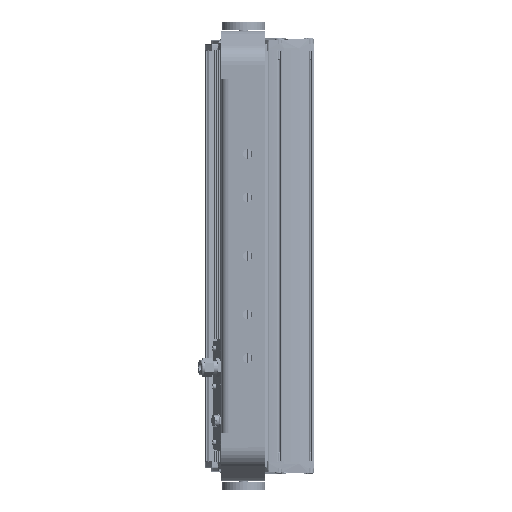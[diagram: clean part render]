
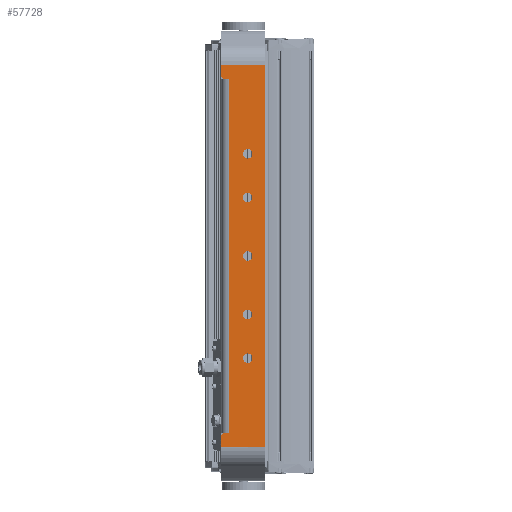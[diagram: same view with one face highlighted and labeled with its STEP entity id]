
A CAD part, front view. The second image highlights one B-rep face of the part: STEP entity #57728.
In plain terms, the highlighted planar face has unit normal (0, -1, 0).
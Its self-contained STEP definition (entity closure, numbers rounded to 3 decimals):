
#3457=FACE_BOUND('',#9179,.T.);
#3458=FACE_BOUND('',#9180,.T.);
#3459=FACE_BOUND('',#9181,.T.);
#3460=FACE_BOUND('',#9182,.T.);
#3461=FACE_BOUND('',#9183,.T.);
#4200=PLANE('',#62066);
#5800=FACE_OUTER_BOUND('',#9178,.T.);
#9178=EDGE_LOOP('',(#39408,#39409,#39410,#39411,#39412,#39413,#39414,#39415,
#39416,#39417,#39418,#39419,#39420,#39421));
#9179=EDGE_LOOP('',(#39422));
#9180=EDGE_LOOP('',(#39423));
#9181=EDGE_LOOP('',(#39424));
#9182=EDGE_LOOP('',(#39425));
#9183=EDGE_LOOP('',(#39426));
#13292=LINE('',#87783,#17719);
#13304=LINE('',#87826,#17731);
#13305=LINE('',#87828,#17732);
#13306=LINE('',#87830,#17733);
#13307=LINE('',#87831,#17734);
#13308=LINE('',#87833,#17735);
#13309=LINE('',#87837,#17736);
#13310=LINE('',#87839,#17737);
#13311=LINE('',#87841,#17738);
#13312=LINE('',#87844,#17739);
#17719=VECTOR('',#69164,10.);
#17731=VECTOR('',#69200,10.);
#17732=VECTOR('',#69201,10.);
#17733=VECTOR('',#69202,10.);
#17734=VECTOR('',#69203,10.);
#17735=VECTOR('',#69204,10.);
#17736=VECTOR('',#69207,10.);
#17737=VECTOR('',#69208,10.);
#17738=VECTOR('',#69209,10.);
#17739=VECTOR('',#69212,10.);
#22143=CIRCLE('',#62053,3.);
#22152=CIRCLE('',#62065,3.);
#22153=CIRCLE('',#62067,0.25);
#22154=CIRCLE('',#62068,0.25);
#22155=CIRCLE('',#62069,6.5);
#22156=CIRCLE('',#62070,6.5);
#22157=CIRCLE('',#62071,6.5);
#22158=CIRCLE('',#62072,6.5);
#22159=CIRCLE('',#62073,6.5);
#25258=VERTEX_POINT('',#87773);
#25259=VERTEX_POINT('',#87775);
#25261=VERTEX_POINT('',#87781);
#25278=VERTEX_POINT('',#87819);
#25279=VERTEX_POINT('',#87820);
#25280=VERTEX_POINT('',#87825);
#25281=VERTEX_POINT('',#87827);
#25282=VERTEX_POINT('',#87829);
#25283=VERTEX_POINT('',#87832);
#25284=VERTEX_POINT('',#87834);
#25285=VERTEX_POINT('',#87836);
#25286=VERTEX_POINT('',#87838);
#25287=VERTEX_POINT('',#87840);
#25288=VERTEX_POINT('',#87842);
#25289=VERTEX_POINT('',#87845);
#25290=VERTEX_POINT('',#87847);
#25291=VERTEX_POINT('',#87849);
#25292=VERTEX_POINT('',#87851);
#25293=VERTEX_POINT('',#87853);
#30799=EDGE_CURVE('',#25258,#25259,#22143,.T.);
#30803=EDGE_CURVE('',#25258,#25261,#13292,.T.);
#30821=EDGE_CURVE('',#25278,#25279,#22152,.T.);
#30824=EDGE_CURVE('',#25280,#25261,#13304,.T.);
#30825=EDGE_CURVE('',#25281,#25280,#13305,.T.);
#30826=EDGE_CURVE('',#25281,#25282,#13306,.T.);
#30827=EDGE_CURVE('',#25282,#25279,#13307,.T.);
#30828=EDGE_CURVE('',#25278,#25283,#13308,.T.);
#30829=EDGE_CURVE('',#25283,#25284,#22153,.T.);
#30830=EDGE_CURVE('',#25284,#25285,#13309,.T.);
#30831=EDGE_CURVE('',#25285,#25286,#13310,.T.);
#30832=EDGE_CURVE('',#25286,#25287,#13311,.T.);
#30833=EDGE_CURVE('',#25287,#25288,#22154,.T.);
#30834=EDGE_CURVE('',#25288,#25259,#13312,.T.);
#30835=EDGE_CURVE('',#25289,#25289,#22155,.T.);
#30836=EDGE_CURVE('',#25290,#25290,#22156,.T.);
#30837=EDGE_CURVE('',#25291,#25291,#22157,.T.);
#30838=EDGE_CURVE('',#25292,#25292,#22158,.T.);
#30839=EDGE_CURVE('',#25293,#25293,#22159,.T.);
#39408=ORIENTED_EDGE('',*,*,#30799,.F.);
#39409=ORIENTED_EDGE('',*,*,#30803,.T.);
#39410=ORIENTED_EDGE('',*,*,#30824,.F.);
#39411=ORIENTED_EDGE('',*,*,#30825,.F.);
#39412=ORIENTED_EDGE('',*,*,#30826,.T.);
#39413=ORIENTED_EDGE('',*,*,#30827,.T.);
#39414=ORIENTED_EDGE('',*,*,#30821,.F.);
#39415=ORIENTED_EDGE('',*,*,#30828,.T.);
#39416=ORIENTED_EDGE('',*,*,#30829,.T.);
#39417=ORIENTED_EDGE('',*,*,#30830,.T.);
#39418=ORIENTED_EDGE('',*,*,#30831,.T.);
#39419=ORIENTED_EDGE('',*,*,#30832,.T.);
#39420=ORIENTED_EDGE('',*,*,#30833,.T.);
#39421=ORIENTED_EDGE('',*,*,#30834,.T.);
#39422=ORIENTED_EDGE('',*,*,#30835,.T.);
#39423=ORIENTED_EDGE('',*,*,#30836,.T.);
#39424=ORIENTED_EDGE('',*,*,#30837,.T.);
#39425=ORIENTED_EDGE('',*,*,#30838,.T.);
#39426=ORIENTED_EDGE('',*,*,#30839,.T.);
#57728=ADVANCED_FACE('',(#5800,#3457,#3458,#3459,#3460,#3461),#4200,.T.);
#62053=AXIS2_PLACEMENT_3D('',#87776,#69157,#69158);
#62065=AXIS2_PLACEMENT_3D('',#87821,#69194,#69195);
#62066=AXIS2_PLACEMENT_3D('',#87824,#69198,#69199);
#62067=AXIS2_PLACEMENT_3D('',#87835,#69205,#69206);
#62068=AXIS2_PLACEMENT_3D('',#87843,#69210,#69211);
#62069=AXIS2_PLACEMENT_3D('',#87846,#69213,#69214);
#62070=AXIS2_PLACEMENT_3D('',#87848,#69215,#69216);
#62071=AXIS2_PLACEMENT_3D('',#87850,#69217,#69218);
#62072=AXIS2_PLACEMENT_3D('',#87852,#69219,#69220);
#62073=AXIS2_PLACEMENT_3D('',#87854,#69221,#69222);
#69157=DIRECTION('center_axis',(0.,1.,0.));
#69158=DIRECTION('ref_axis',(-0.707,0.,0.707));
#69164=DIRECTION('',(0.,0.,-1.));
#69194=DIRECTION('center_axis',(0.,1.,0.));
#69195=DIRECTION('ref_axis',(-0.707,0.,-0.707));
#69198=DIRECTION('center_axis',(0.,-1.,0.));
#69199=DIRECTION('ref_axis',(1.,0.,0.));
#69200=DIRECTION('',(-1.,0.,0.));
#69201=DIRECTION('',(0.,0.,-1.));
#69202=DIRECTION('',(-1.,0.,0.));
#69203=DIRECTION('',(0.,0.,-1.));
#69204=DIRECTION('',(1.,0.,0.));
#69205=DIRECTION('center_axis',(0.,1.,0.));
#69206=DIRECTION('ref_axis',(0.,0.,
-1.));
#69207=DIRECTION('',(-1.,0.,0.));
#69208=DIRECTION('',(0.,0.,-1.));
#69209=DIRECTION('',(1.,0.,0.));
#69210=DIRECTION('center_axis',(0.,1.,0.));
#69211=DIRECTION('ref_axis',(0.,0.,
1.));
#69212=DIRECTION('',(-1.,0.,0.));
#69213=DIRECTION('center_axis',(0.,1.,0.));
#69214=DIRECTION('ref_axis',(-1.,0.,0.));
#69215=DIRECTION('center_axis',(0.,1.,0.));
#69216=DIRECTION('ref_axis',(-1.,0.,0.));
#69217=DIRECTION('center_axis',(0.,1.,0.));
#69218=DIRECTION('ref_axis',(-1.,0.,0.));
#69219=DIRECTION('center_axis',(0.,1.,0.));
#69220=DIRECTION('ref_axis',(-1.,0.,0.));
#69221=DIRECTION('center_axis',(0.,1.,0.));
#69222=DIRECTION('ref_axis',(-1.,0.,0.));
#87773=CARTESIAN_POINT('',(0.,-5.,-245.682));
#87775=CARTESIAN_POINT('',(3.,-5.,-242.682));
#87776=CARTESIAN_POINT('Origin',(3.,-5.,-245.682));
#87781=CARTESIAN_POINT('',(0.,-5.,-262.182));
#87783=CARTESIAN_POINT('',(0.,-5.,500.424));
#87819=CARTESIAN_POINT('',(3.,-5.,242.682));
#87820=CARTESIAN_POINT('',(0.,-5.,245.682));
#87821=CARTESIAN_POINT('Origin',(3.,-5.,245.682));
#87824=CARTESIAN_POINT('Origin',(30.,-5.,250.212));
#87825=CARTESIAN_POINT('',(60.,-5.,-262.182));
#87826=CARTESIAN_POINT('',(30.,-5.,-262.182));
#87827=CARTESIAN_POINT('',(60.,-5.,262.182));
#87828=CARTESIAN_POINT('',(60.,-5.,500.424));
#87829=CARTESIAN_POINT('',(0.,-5.,262.182));
#87830=CARTESIAN_POINT('',(30.,-5.,262.182));
#87831=CARTESIAN_POINT('',(0.,-5.,500.424));
#87832=CARTESIAN_POINT('',(10.25,-5.,242.682));
#87833=CARTESIAN_POINT('',(15.,-5.,242.682));
#87834=CARTESIAN_POINT('',(10.25,-5.,242.182));
#87835=CARTESIAN_POINT('Origin',(10.25,-5.,242.432));
#87836=CARTESIAN_POINT('',(10.,-5.,242.182));
#87837=CARTESIAN_POINT('',(20.125,-5.,242.182));
#87838=CARTESIAN_POINT('',(10.,-5.,-242.182));
#87839=CARTESIAN_POINT('',(10.,-5.,246.197));
#87840=CARTESIAN_POINT('',(10.25,-5.,-242.182));
#87841=CARTESIAN_POINT('',(15.,-5.,-242.182));
#87842=CARTESIAN_POINT('',(10.25,-5.,-242.682));
#87843=CARTESIAN_POINT('Origin',(10.25,-5.,-242.432));
#87844=CARTESIAN_POINT('',(20.125,-5.,-242.682));
#87845=CARTESIAN_POINT('',(42.5,-5.,140.));
#87846=CARTESIAN_POINT('Origin',(36.,-5.,140.));
#87847=CARTESIAN_POINT('',(42.5,-5.,0.));
#87848=CARTESIAN_POINT('Origin',(36.,-5.,0.));
#87849=CARTESIAN_POINT('',(42.5,-5.,-80.));
#87850=CARTESIAN_POINT('Origin',(36.,-5.,-80.));
#87851=CARTESIAN_POINT('',(42.5,-5.,-140.));
#87852=CARTESIAN_POINT('Origin',(36.,-5.,-140.));
#87853=CARTESIAN_POINT('',(42.5,-5.,80.));
#87854=CARTESIAN_POINT('Origin',(36.,-5.,80.));
